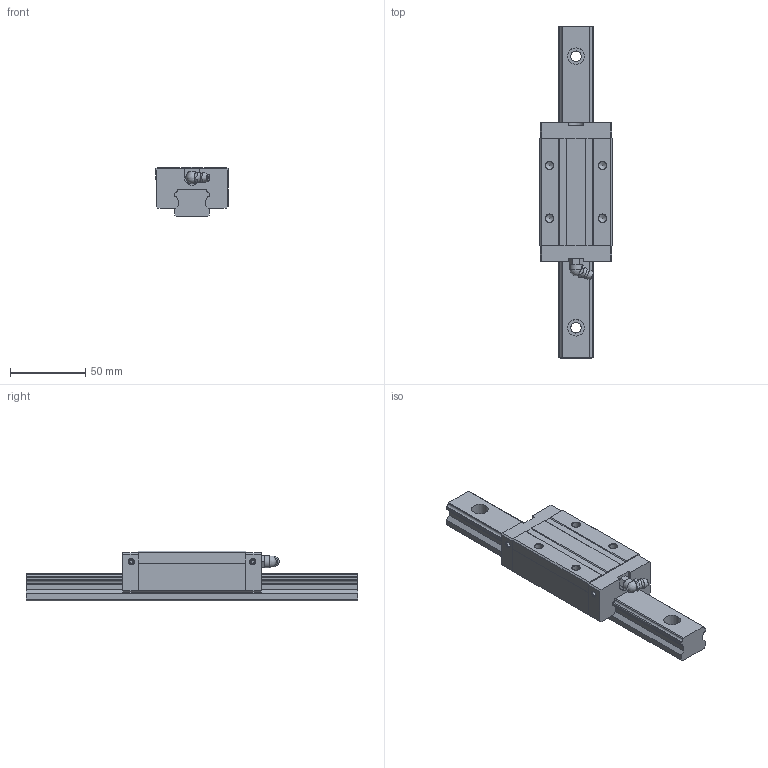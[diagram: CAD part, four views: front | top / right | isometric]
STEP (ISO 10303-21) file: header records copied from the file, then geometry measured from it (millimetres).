
FILE_DESCRIPTION(/* description */ (''),/* implementation_level */ '2;1');
FILE_NAME(/* name */ 'SME25-SB',/* time_stamp */ '2008-10-06T09:46:51+08:00',/* author */ (''),/* organization */ (''),/* preprocessor_version */ 'ST-DEVELOPER v11',/* originating_system */ 'UGS - NX 5.0',/* authorisation */ '');
FILE_SCHEMA (('AUTOMOTIVE_DESIGN { 1 0 10303 214 1 1 1 1 }'));
Length unit declared in the file: millimetre
Products named in the file (1): SME25SB_UG
Bounding box: 48 x 220 x 33 mm (x, y, z)
Volume: 172461 mm3; surface area: 40259.2 mm2
Topology: 3 solids, 3 shells, 175 faces, 455 edges, 300 vertices
Faces by surface type: plane 103, cylinder 49, cone 13, torus 7, sphere 2, bspline 1
Full cylindrical faces by diameter (mm): 2 x4, 3.3 x4, 5.2 x4, 6.5 x2, 7 x4, 8 x1, 11 x4
Entity records: 5397 total; most frequent: CARTESIAN_POINT 1026, DIRECTION 848, ORIENTED_EDGE 790, EDGE_CURVE 395, AXIS2_PLACEMENT_3D 298, VERTEX_POINT 284, LINE 252, VECTOR 252
